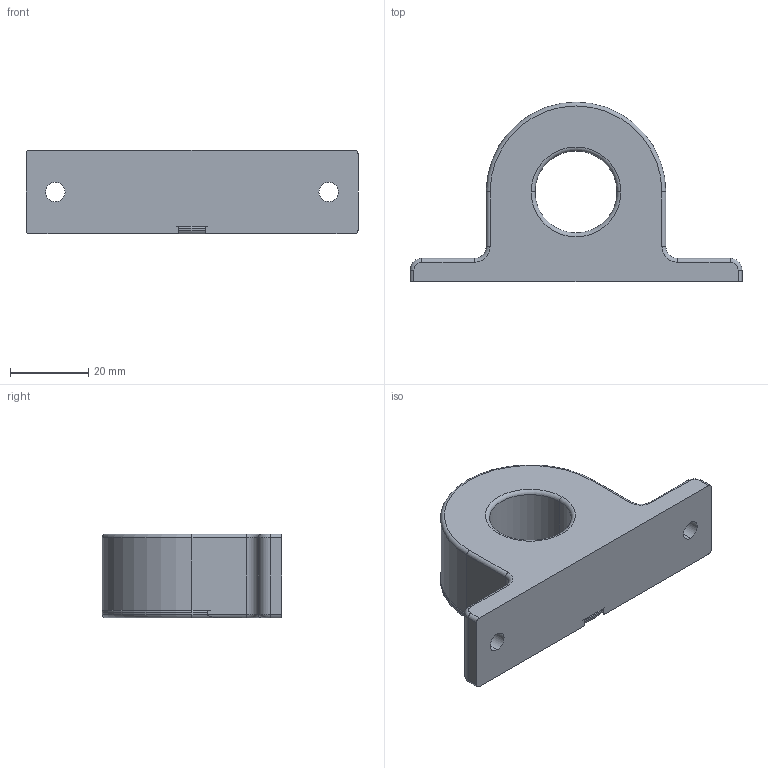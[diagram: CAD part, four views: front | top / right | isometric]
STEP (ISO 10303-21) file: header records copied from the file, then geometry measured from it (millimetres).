
FILE_DESCRIPTION (( 'STEP AP203' ), '1' );
FILE_NAME ('OC-1.STEP', '2016-11-15T10:23:33', ( '' ), ( '' ), 'SwSTEP 2.0', 'SolidWorks 2016', '' );
FILE_SCHEMA (( 'CONFIG_CONTROL_DESIGN' ));
Length unit declared in the file: millimetre
Products named in the file (1): OC-1
Bounding box: 85 x 46 x 21.5 mm (x, y, z)
Volume: 37810.7 mm3; surface area: 12780.1 mm2
Topology: 2 solids, 2 shells, 63 faces, 149 edges, 90 vertices
Faces by surface type: cylinder 29, torus 19, plane 15
Entity records: 1931 total; most frequent: DIRECTION 362, CARTESIAN_POINT 321, ORIENTED_EDGE 298, AXIS2_PLACEMENT_3D 151, EDGE_CURVE 149, VERTEX_POINT 90, CIRCLE 87, EDGE_LOOP 71
